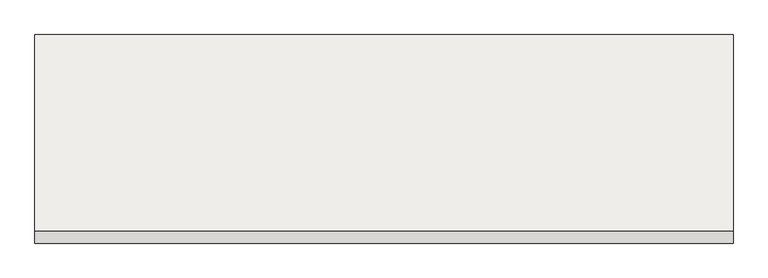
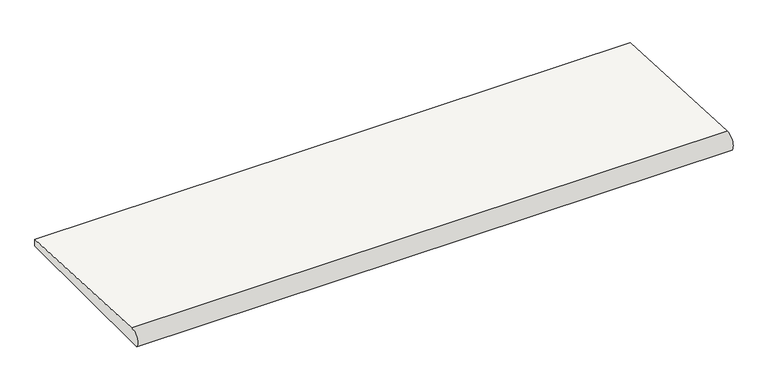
"""IFC4 building model written with IfcOpenShell, lengths in millimetres: slab geometry, ROSA GRES_S62 : Pieza S62_Serena_Griggio_Anti-Slip."""

from ifc_helpers import new_model, si_unit, point, frame, frame_2d, origin, place, context, project, spatial, polyline, circle_curve, trimmed, segment, composite_curve, outline, extrude, source, transform, mapped, element, save


def slab_41163825(model_context):
    return source(origin(), model_context, "Body", "SweptSolid", [
        extrude(outline(composite_curve([segment(polyline([(14.738484, 26.0545458), (306.6389713, 12.0), (306.6389713, 0.0), (0.0, 0.0)]), True, "CONTINUOUS"), segment(trimmed(circle_curve(frame_2d((13.9724374, 9.2919904)), 16.7800504), [point((0.0, 0.0))], [point((14.738484, 26.0545458))], False, "CARTESIAN"), True, "CONTINUOUS")], self_intersect=False)), frame((0.0, 0.0, 0.0), z_axis=(1.0, 0.0, 0.0), x_axis=(0.0, 1.0, 0.0)), (0.0, 0.0, 1.0), 1035.5506473),
    ])


if __name__ == "__main__":
    model = new_model("IFC4")
    model_context = context("Model", 3, world=origin())
    ifc_project = project(units=[si_unit("LENGTHUNIT", "METRE", prefix="MILLI")], contexts=[model_context])
    site = spatial("IfcSite", under=ifc_project)
    building = spatial("IfcBuilding", under=site)
    placement = place(None, origin())
    slab_shape = slab_41163825(model_context)
    element("IfcSlab", 1, ObjectType="ROSA GRES_S62 : Pieza S62_Serena_Griggio_Anti-Slip", at=placement, inside=building, context=model_context, shape_type="MappedRepresentation", body=[
        mapped(slab_shape, transform((0.0, 0.0, 0.0), x_axis=(1.0, 0.0, 0.0), y_axis=(0.0, 1.0, 0.0), z_axis=(0.0, 0.0, 1.0))),
    ])
    save(model, "model.ifc")
